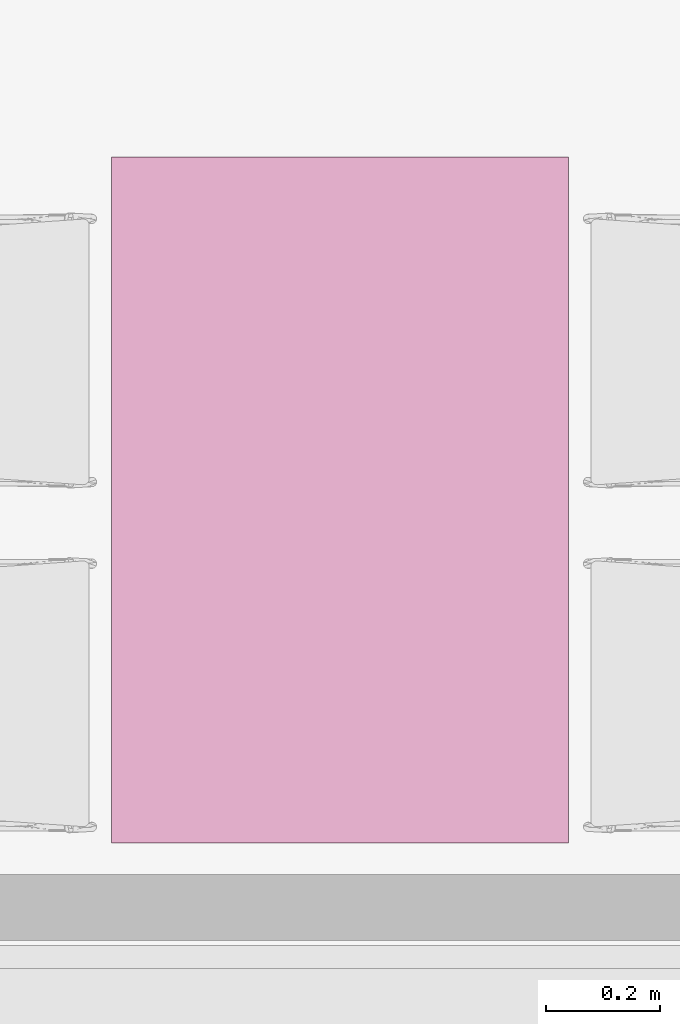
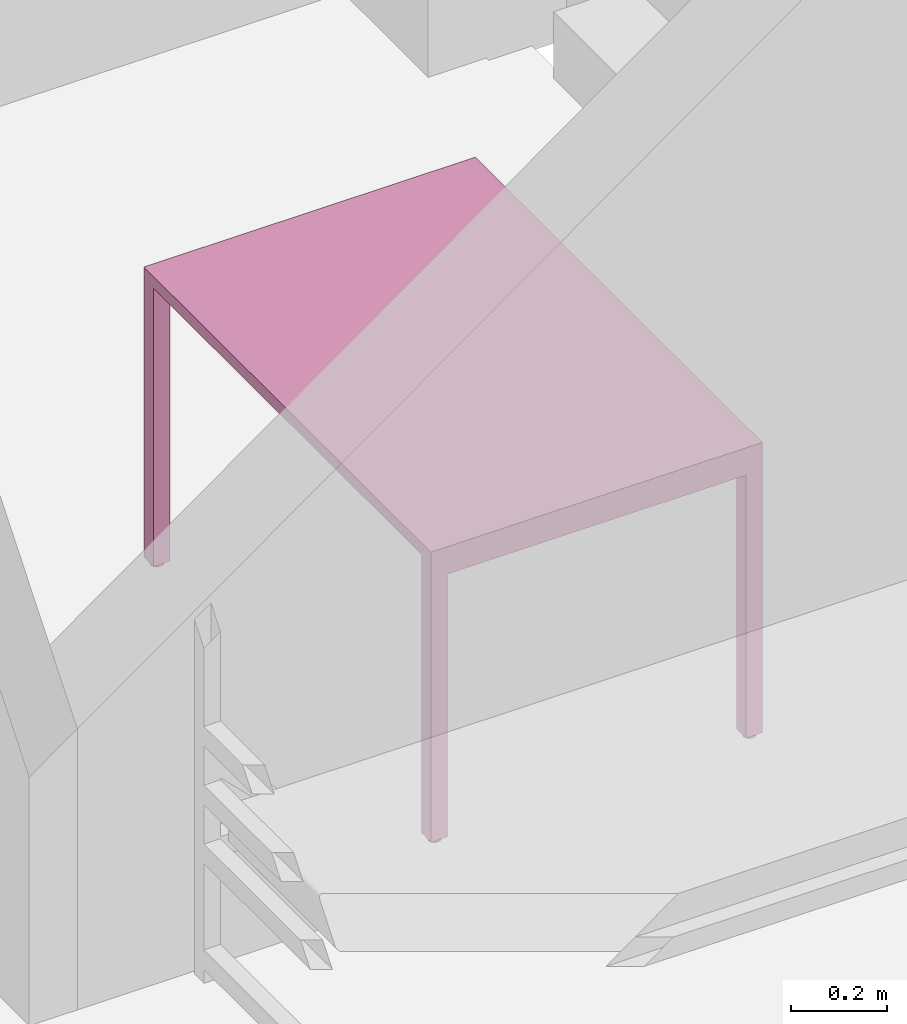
# One storey, part 45 of 48: 1 furnishing.
"""IFC2X3 building model written with IfcOpenShell, lengths in millimetres."""

from ifc_helpers import new_model, entity, si_unit, converted_unit, derived_unit, direction, frame, frame_2d, origin, origin_2d_with_axis, place, context, subcontext, project, spatial, polyline, rectangle, circle, outline, extrude, source, transform, mapped, material, material_list, type_object, type_shapes, element, save


model = new_model("IFC2X3")

# Units and contexts
model_context = context("Model", 3, precision=0.01, world=origin(), true_north=direction((6.12303176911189e-17, 1.0)))
body_context = subcontext(model_context, "Body", "Model", "MODEL_VIEW")
ifc_project = project(units=[si_unit("LENGTHUNIT", "METRE", prefix="MILLI"), si_unit("AREAUNIT", "SQUARE_METRE"), si_unit("VOLUMEUNIT", "CUBIC_METRE"), converted_unit("PLANEANGLEUNIT", "DEGREE", entity("IfcRatioMeasure", 0.0174532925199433), si_unit("PLANEANGLEUNIT", "RADIAN"), dimensions=[0, 0, 0, 0, 0, 0, 0]), si_unit("MASSUNIT", "GRAM", prefix="KILO"), derived_unit("MASSDENSITYUNIT", [(si_unit("MASSUNIT", "GRAM", prefix="KILO"), 1), (si_unit("LENGTHUNIT", "METRE"), -3)]), si_unit("TIMEUNIT", "SECOND"), si_unit("FREQUENCYUNIT", "HERTZ"), si_unit("THERMODYNAMICTEMPERATUREUNIT", "DEGREE_CELSIUS"), derived_unit("THERMALTRANSMITTANCEUNIT", [(si_unit("MASSUNIT", "GRAM", prefix="KILO"), 1), (si_unit("THERMODYNAMICTEMPERATUREUNIT", "KELVIN"), -1), (si_unit("TIMEUNIT", "SECOND"), -3)]), derived_unit("VOLUMETRICFLOWRATEUNIT", [(si_unit("LENGTHUNIT", "METRE"), 3), (si_unit("TIMEUNIT", "SECOND"), -1)]), si_unit("ELECTRICCURRENTUNIT", "AMPERE"), si_unit("ELECTRICVOLTAGEUNIT", "VOLT"), si_unit("POWERUNIT", "WATT"), si_unit("FORCEUNIT", "NEWTON", prefix="KILO"), si_unit("ILLUMINANCEUNIT", "LUX"), si_unit("LUMINOUSFLUXUNIT", "LUMEN"), si_unit("LUMINOUSINTENSITYUNIT", "CANDELA"), derived_unit("USERDEFINED", [(si_unit("MASSUNIT", "GRAM", prefix="KILO"), -1), (si_unit("LENGTHUNIT", "METRE"), -2), (si_unit("TIMEUNIT", "SECOND"), 3), (si_unit("LUMINOUSFLUXUNIT", "LUMEN"), 1)]), derived_unit("LINEARVELOCITYUNIT", [(si_unit("LENGTHUNIT", "METRE"), 1), (si_unit("TIMEUNIT", "SECOND"), -1)]), si_unit("PRESSUREUNIT", "PASCAL"), derived_unit("USERDEFINED", [(si_unit("LENGTHUNIT", "METRE"), -2), (si_unit("MASSUNIT", "GRAM", prefix="KILO"), 1), (si_unit("TIMEUNIT", "SECOND"), -2)]), derived_unit("LINEARFORCEUNIT", [(si_unit("MASSUNIT", "GRAM", prefix="KILO"), 1), (si_unit("LENGTHUNIT", "METRE"), 1), (si_unit("TIMEUNIT", "SECOND"), -2), (si_unit("LENGTHUNIT", "METRE"), -1)]), derived_unit("PLANARFORCEUNIT", [(si_unit("MASSUNIT", "GRAM", prefix="KILO"), 1), (si_unit("LENGTHUNIT", "METRE"), 1), (si_unit("TIMEUNIT", "SECOND"), -2), (si_unit("LENGTHUNIT", "METRE"), -2)])], contexts=[model_context])

# Site, building, storey, space
site_placement = place(None, origin())
site = spatial("IfcSite", under=ifc_project, at=site_placement, Name="Default", CompositionType="ELEMENT")
building_placement = place(site_placement, origin())
building = spatial("IfcBuilding", under=site, at=building_placement, Name="SMA ARH", CompositionType="ELEMENT")
storey_placement = place(building_placement, frame((0.0, 0.0, 6600.0)))
storey = spatial("IfcBuildingStorey", under=building, at=storey_placement, Name="3 Korrus", CompositionType="ELEMENT", Elevation=6599.99999999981)
space_placement = place(storey_placement, origin())
space = spatial("IfcSpace", under=storey, at=space_placement, Name="3-3", CompositionType="ELEMENT", InteriorOrExteriorSpace="INTERNAL")

# Furnishing
ifc_material_1 = material(Name="Metal - Stud Layer")
ifc_material_2 = material(Name="<Unnamed>")
ifc_material_list = material_list([ifc_material_1, ifc_material_2])
furniture_type = type_object("IfcFurnitureType", Name="laud_1200x800:laud_1200x800", material=ifc_material_list)
shared_shape = source(origin(), body_context, "Body", "SweptSolid", [
    extrude(rectangle(XDim=800.0, YDim=1200.0, at=origin_2d_with_axis()), frame((-150.0, 550.0, 720.0), z_axis=(0.0, 0.0, 1.0), x_axis=(-1.0, 0.0, 0.0)), (0.0, 0.0, 1.0), 29.9999999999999),
    extrude(outline(polyline([(-400.0, -365.0), (400.0, -365.0), (400.0, 345.0), (360.0, 345.0), (360.0, -325.0), (-360.0, -325.0), (-360.0, 345.0), (-400.0, 345.0), (-400.0, -365.0)])), frame((-150.0, -50.0, 355.0), z_axis=(0.0, 1.0, 0.0), x_axis=(1.0, 0.0, 0.0)), (0.0, 0.0, 1.0), 40.0000000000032),
    extrude(outline(polyline([(-400.0, -365.0), (400.0, -365.0), (400.0, 345.0), (360.0, 345.0), (360.0, -325.0), (-360.0, -325.0), (-360.0, 345.0), (-400.0, 345.0), (-400.0, -365.0)])), frame((-150.0, 1110.0, 355.0), z_axis=(0.0, 1.0, 0.0), x_axis=(1.0, 0.0, 0.0)), (0.0, 0.0, 1.0), 40.0000000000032),
    extrude(circle(Radius=15.0, at=frame_2d((0.0, 5.07593966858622e-14), x_axis=(1.0, 0.0))), frame((-529.847171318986, -29.9550233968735, 0.0)), (0.0, 0.0, 1.0), 10.0),
    extrude(circle(Radius=15.0, at=origin_2d_with_axis()), frame((-529.847171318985, 1129.95502339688, 0.0)), (0.0, 0.0, 1.0), 10.0),
    extrude(circle(Radius=15.0, at=origin_2d_with_axis()), frame((230.152828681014, -29.9550233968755, 0.0)), (0.0, 0.0, 1.0), 10.0),
    extrude(circle(Radius=15.0, at=origin_2d_with_axis()), frame((230.152828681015, 1129.95502339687, 0.0)), (0.0, 0.0, 1.0), 10.0),
])
type_shapes(furniture_type, [shared_shape])
furnishing_placement = place(space_placement, frame((37343.2995004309, 3260.49999999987, 0.0)))
element("IfcFurnishingElement", 1, at=furnishing_placement, inside=space, type_object=furniture_type, material=ifc_material_1, Name="laud_1200x800:laud_1200x800", ObjectType="laud_1200x800:laud_1200x800", context=body_context, shape_type="MappedRepresentation", body=[
    mapped(shared_shape, transform((0.0, 0.0, 0.0), scale=1.0)),
])

save(model, "model.ifc")
